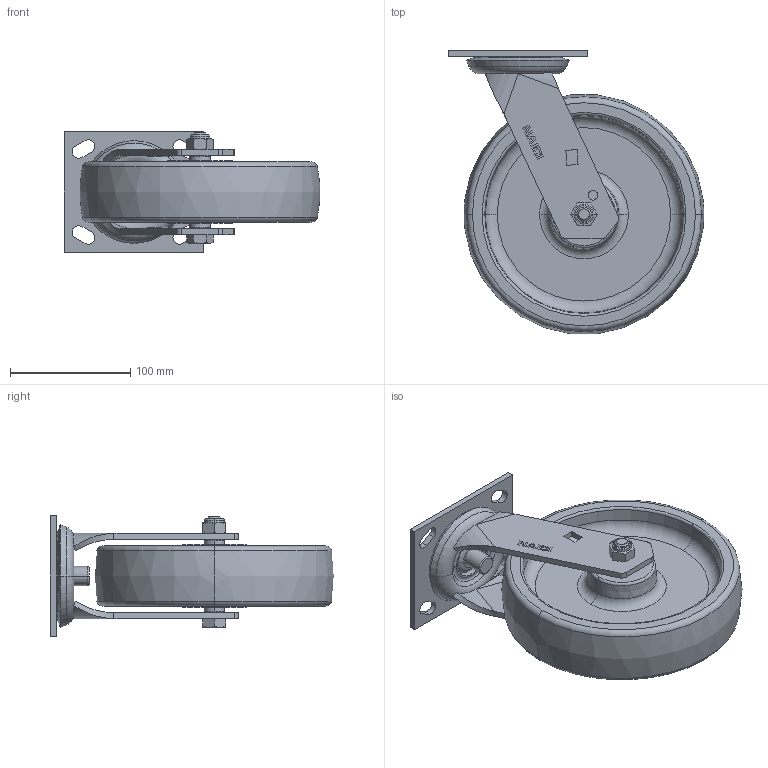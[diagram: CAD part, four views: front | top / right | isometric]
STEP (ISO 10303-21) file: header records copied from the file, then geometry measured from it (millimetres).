
FILE_DESCRIPTION((''),'2;1');
FILE_NAME('C74118_ASM','2024-06-27T',('Lenovo'),(''),'PRO/ENGINEER BY PARAMETRIC TECHNOLOGY CORPORATION, 2010280','PRO/ENGINEER BY PARAMETRIC TECHNOLOGY CORPORATION, 2010280','');
FILE_SCHEMA(('CONFIG_CONTROL_DESIGN'));
Length unit declared in the file: millimetre
Products named in the file (9): C7410-201; C7410-211; C7418-353; 7310-051; C748-906; 700-54; 700-33; 700-34; C74118_ASM
Assembly tree (8 placements, depth 2):
  C74118_ASM
    C7410-201
    C7410-211
    C7418-353
    7310-051
    C748-906
    700-54
    700-33
    700-34
Bounding box: 212.75 x 235.87 x 100 mm (x, y, z)
Volume: 946388.4 mm3; surface area: 199719.5 mm2
Topology: 9 solids, 9 shells, 290 faces, 660 edges, 410 vertices
Faces by surface type: plane 122, cylinder 64, torus 56, cone 38, bspline 8, sphere 2
Entity records: 8805 total; most frequent: CARTESIAN_POINT 1885, DIRECTION 1506, ORIENTED_EDGE 1320, EDGE_CURVE 660, AXIS2_PLACEMENT_3D 587, VERTEX_POINT 410, EDGE_LOOP 342, VECTOR 332
